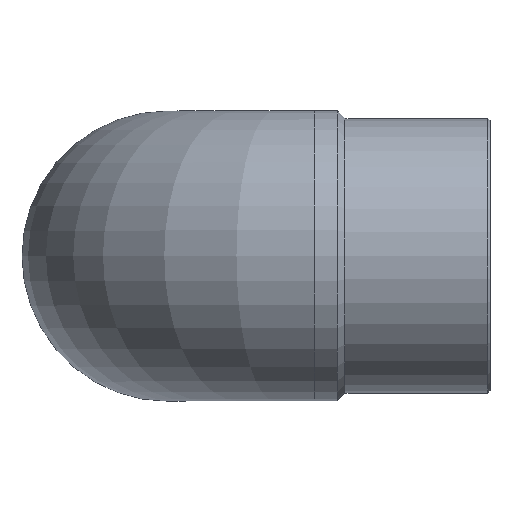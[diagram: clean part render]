
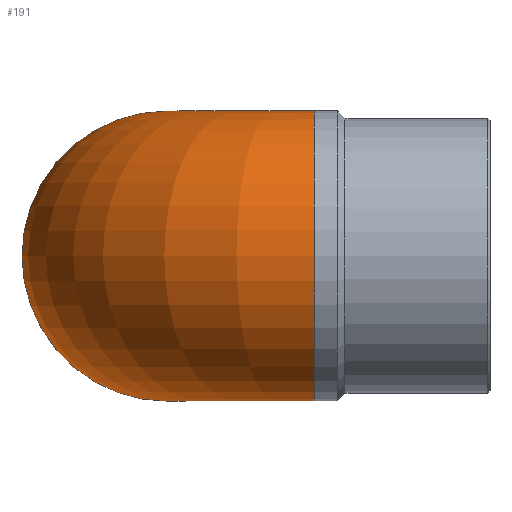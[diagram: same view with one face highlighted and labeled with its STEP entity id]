
A CAD part, top view. The second image highlights one B-rep face of the part: STEP entity #191.
In plain terms, the highlighted toroidal (fillet/blend) face has major radius 134 mm and minor radius 132 mm.
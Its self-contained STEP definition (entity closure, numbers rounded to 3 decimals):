
#20=TOROIDAL_SURFACE('',#231,134.,132.);
#59=ORIENTED_EDGE('',*,*,#77,.F.);
#60=ORIENTED_EDGE('',*,*,#79,.T.);
#77=EDGE_CURVE('',#96,#96,#114,.F.);
#79=EDGE_CURVE('',#98,#98,#116,.F.);
#96=VERTEX_POINT('',#312);
#98=VERTEX_POINT('',#318);
#114=CIRCLE('',#217,132.);
#116=CIRCLE('',#221,132.);
#142=EDGE_LOOP('',(#59));
#143=EDGE_LOOP('',(#60));
#169=FACE_BOUND('',#142,.T.);
#170=FACE_BOUND('',#143,.T.);
#191=ADVANCED_FACE('',(#169,#170),#20,.T.);
#217=AXIS2_PLACEMENT_3D('',#311,#256,#257);
#221=AXIS2_PLACEMENT_3D('',#317,#264,#265);
#231=AXIS2_PLACEMENT_3D('',#365,#284,#285);
#256=DIRECTION('',(-1.,0.,0.));
#257=DIRECTION('',(0.,0.,-1.));
#264=DIRECTION('',(0.,0.,-1.));
#265=DIRECTION('',(1.,0.,0.));
#284=DIRECTION('',(0.,1.,0.));
#285=DIRECTION('',(0.,0.,1.));
#311=CARTESIAN_POINT('',(134.,0.,294.));
#312=CARTESIAN_POINT('',(134.,0.,162.));
#317=CARTESIAN_POINT('',(0.,0.,160.));
#318=CARTESIAN_POINT('',(132.,0.,160.));
#365=CARTESIAN_POINT('',(134.,0.,160.));
